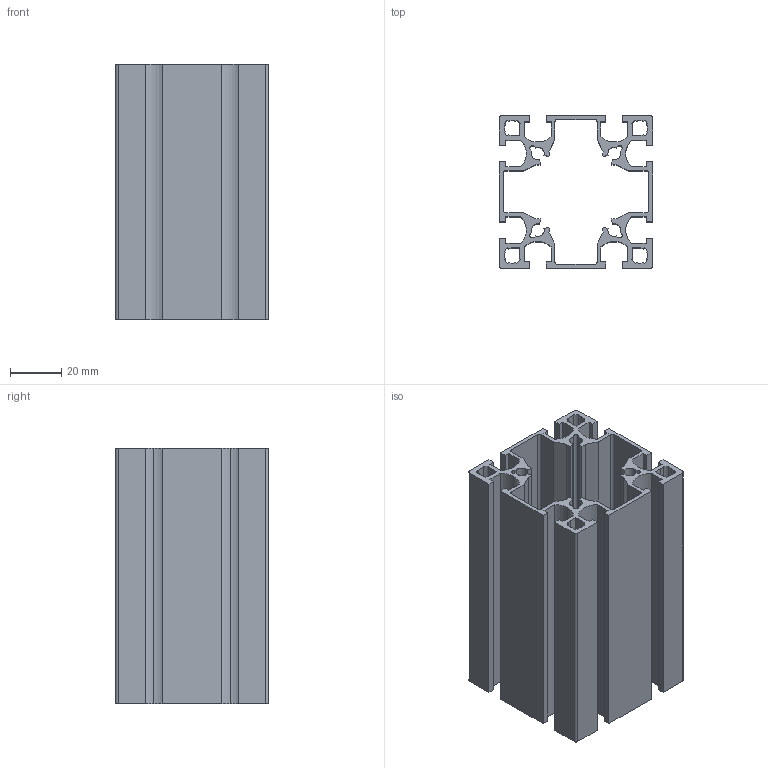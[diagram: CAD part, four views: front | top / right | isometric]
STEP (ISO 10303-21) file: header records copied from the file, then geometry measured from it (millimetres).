
FILE_DESCRIPTION (( 'STEP AP203' ), '1' );
FILE_NAME ('WS6060A-6.STEP', '2024-02-17T06:44:42', ( '' ), ( '' ), 'SwSTEP 2.0', 'SolidWorks 2022', '' );
FILE_SCHEMA (( 'CONFIG_CONTROL_DESIGN' ));
Length unit declared in the file: millimetre
Products named in the file (1): WS6060A-6
Bounding box: 60 x 60 x 100 mm (x, y, z)
Volume: 81658.6 mm3; surface area: 81726.1 mm2
Topology: 1 solids, 1 shells, 210 faces, 624 edges, 416 vertices
Faces by surface type: plane 130, cylinder 80
Entity records: 7145 total; most frequent: CARTESIAN_POINT 1251, ORIENTED_EDGE 1248, DIRECTION 1206, EDGE_CURVE 624, LINE 464, VECTOR 464, VERTEX_POINT 416, AXIS2_PLACEMENT_3D 371
